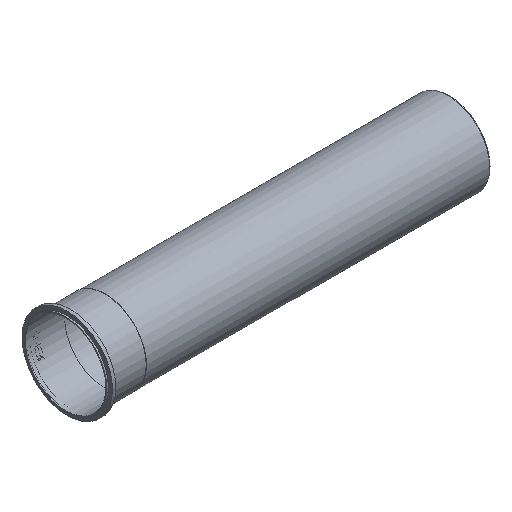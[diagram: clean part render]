
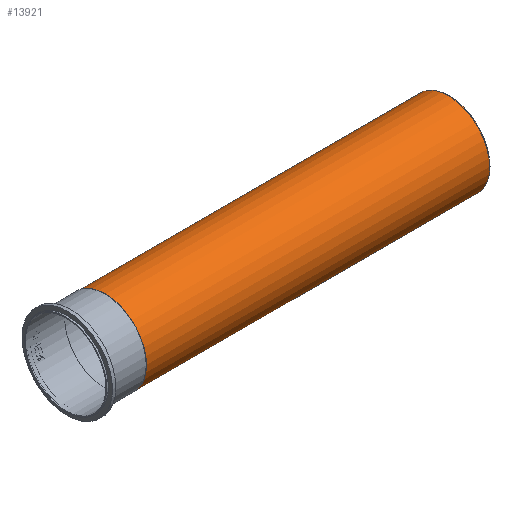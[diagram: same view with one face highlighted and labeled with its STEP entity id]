
A CAD part, isometric view. The second image highlights one B-rep face of the part: STEP entity #13921.
In plain terms, the highlighted cylindrical face has radius 79.883 mm (diameter 159.766 mm), a full revolution.
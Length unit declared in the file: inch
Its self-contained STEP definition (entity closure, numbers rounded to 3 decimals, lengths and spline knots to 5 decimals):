
#13890=CARTESIAN_POINT('',(3.06,3.145,0.0));
#13891=VERTEX_POINT('',#13890);
#13892=CARTESIAN_POINT('',(3.06,0.0,0.0));
#13893=DIRECTION('',(1.0,0.0,0.0));
#13894=DIRECTION('',(0.0,1.0,0.0));
#13895=AXIS2_PLACEMENT_3D('',#13892,#13893,#13894);
#13896=CIRCLE('',#13895,3.145);
#13897=EDGE_CURVE('',#13891,#13891,#13896,.T.);
#13902=CARTESIAN_POINT('',(16.29378,0.0,0.0));
#13903=DIRECTION('',(1.0,0.0,0.0));
#13904=DIRECTION('',(0.0,1.0,0.0));
#13905=AXIS2_PLACEMENT_3D('',#13902,#13903,#13904);
#13906=CYLINDRICAL_SURFACE('',#13905,3.145);
#13907=CARTESIAN_POINT('',(29.52756,3.145,0.0));
#13908=VERTEX_POINT('',#13907);
#13909=CARTESIAN_POINT('',(29.52756,0.0,0.0));
#13910=DIRECTION('',(1.0,0.0,0.0));
#13911=DIRECTION('',(0.0,1.0,0.0));
#13912=AXIS2_PLACEMENT_3D('',#13909,#13910,#13911);
#13913=CIRCLE('',#13912,3.145);
#13914=EDGE_CURVE('',#13908,#13908,#13913,.T.);
#13915=ORIENTED_EDGE('',*,*,#13914,.F.);
#13916=EDGE_LOOP('',(#13915));
#13917=FACE_OUTER_BOUND('',#13916,.T.);
#13918=ORIENTED_EDGE('',*,*,#13897,.T.);
#13919=EDGE_LOOP('',(#13918));
#13920=FACE_BOUND('',#13919,.T.);
#13921=ADVANCED_FACE('',(#13917,#13920),#13906,.T.);
